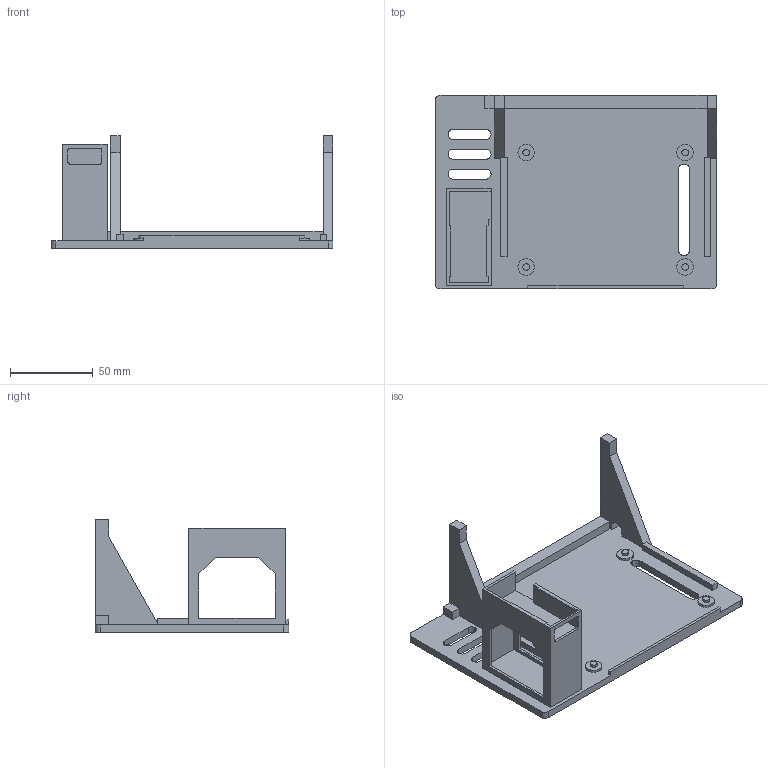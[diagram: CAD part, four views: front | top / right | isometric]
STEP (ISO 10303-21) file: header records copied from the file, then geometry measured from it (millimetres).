
FILE_DESCRIPTION(('Open CASCADE Model'),'2;1');
FILE_NAME('Open CASCADE Shape Model','2026-10-28T16:46:13',('Author'),( 'Open CASCADE'),'Open CASCADE STEP processor 7.9','Open CASCADE 7.9' ,'Unknown');
FILE_SCHEMA(('AUTOMOTIVE_DESIGN { 1 0 10303 214 1 1 1 1 }'));
Length unit declared in the file: millimetre
Products named in the file (1): Open CASCADE STEP translator 7.9 4
Bounding box: 170.1 x 116.7 x 68 mm (x, y, z)
Volume: 123691.4 mm3; surface area: 66898.4 mm2
Topology: 1 solids, 1 shells, 155 faces, 402 edges, 268 vertices
Faces by surface type: plane 112, cylinder 43
Full cylindrical faces by diameter (mm): 4 x10, 10 x7
Entity records: 9858 total; most frequent: CARTESIAN_POINT 1894, DIRECTION 1416, LINE 858, VECTOR 858, ORIENTED_EDGE 804, PCURVE 804, DEFINITIONAL_REPRESENTATION 804, EDGE_CURVE 402
